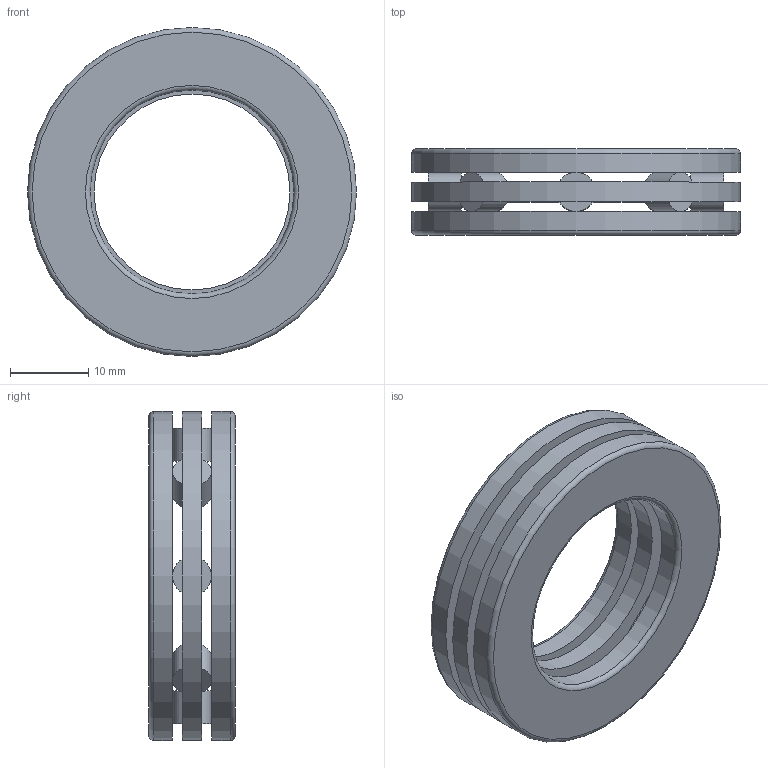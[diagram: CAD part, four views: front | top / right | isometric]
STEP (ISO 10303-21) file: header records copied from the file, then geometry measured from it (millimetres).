
FILE_DESCRIPTION(/* description */ (''),/* implementation_level */ '2;1');
FILE_NAME(/* name */ 'D:\moje\parametrické\Axiálne valčekové lo\X2\017E\X0\iská\811--\811--_\81105.stp',/* time_stamp */ '2016-09-27T08:31:19+02:00',/* author */ ('OUBALASKO'),/* organization */ (''),/* preprocessor_version */ 'ST-DEVELOPER v15.6',/* originating_system */ 'Autodesk Inventor 2015',/* authorisation */ '');
FILE_SCHEMA (('AUTOMOTIVE_DESIGN { 1 0 10303 214 3 1 1 }'));
Length unit declared in the file: millimetre
Products named in the file (6): GS81105; WS81105; 81105-cage; 81105-roller; K81105TNG; 81105
Assembly tree (12 placements, depth 3):
  81105
    GS81105
    WS81105
    K81105TNG
      81105-cage
      81105-roller  x8
Bounding box: 42 x 11 x 42 mm (x, y, z)
Volume: 7651 mm3; surface area: 7837.9 mm2
Topology: 11 solids, 11 shells, 72 faces, 146 edges, 96 vertices
Faces by surface type: plane 54, cylinder 14, torus 4
Full cylindrical faces by diameter (mm): 5 x8, 25 x2, 26 x1, 42 x3
Entity records: 1657 total; most frequent: DIRECTION 270, CARTESIAN_POINT 265, ORIENTED_EDGE 228, EDGE_CURVE 114, LINE 96, VECTOR 96, AXIS2_PLACEMENT_3D 87, EDGE_LOOP 84
